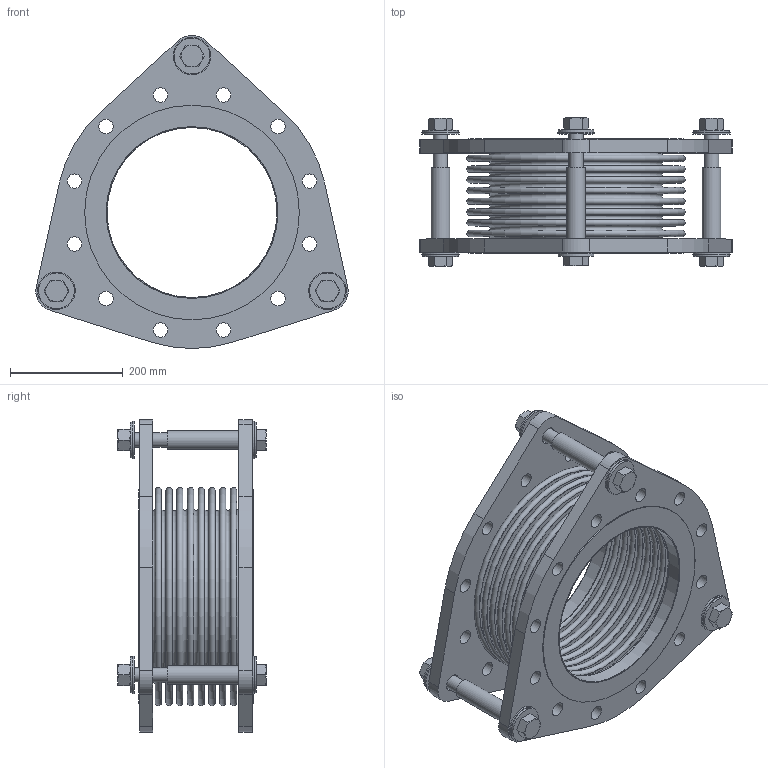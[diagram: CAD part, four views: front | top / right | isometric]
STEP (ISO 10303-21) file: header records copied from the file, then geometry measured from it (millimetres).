
FILE_DESCRIPTION(/* description */ (''),/* implementation_level */ '2;1');
FILE_NAME(/* name */ 'C:\001_Work\Designs\RFB\RFB-12x8.stp',/* time_stamp */ '2016-04-28T19:01:33-04:00',/* author */ ('rramoutar'),/* organization */ ('Mason Industries Inc.'),/* preprocessor_version */ 'ST-DEVELOPER v15.6',/* originating_system */ 'Autodesk Inventor 2015',/* authorisation */ '');
FILE_SCHEMA (('CONFIG_CONTROL_DESIGN'));
Length unit declared in the file: inch
Products named in the file (1): 12in_RFB_150FLANGE
Bounding box: 554.11 x 263.12 x 555.5 mm (x, y, z)
Volume: 8492389.4 mm3; surface area: 2681654 mm2
Topology: 24 solids, 24 shells, 313 faces, 659 edges, 431 vertices
Faces by surface type: plane 133, cylinder 86, cone 60, torus 34
Full cylindrical faces by diameter (mm): 21.971 x3, 25.4 x33, 26.645 x3, 26.987 x6, 30.162 x6, 33.401 x3, 63.5 x6, 66.675 x6, 301.625 x2, 304.8 x4, 381 x2
Entity records: 8003 total; most frequent: CARTESIAN_POINT 1428, DIRECTION 1322, ORIENTED_EDGE 1012, AXIS2_PLACEMENT_3D 610, EDGE_LOOP 566, EDGE_CURVE 506, VERTEX_POINT 392, STYLED_ITEM 337
